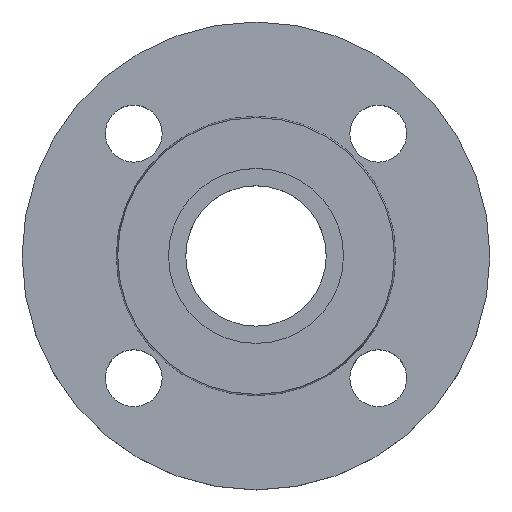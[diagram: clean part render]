
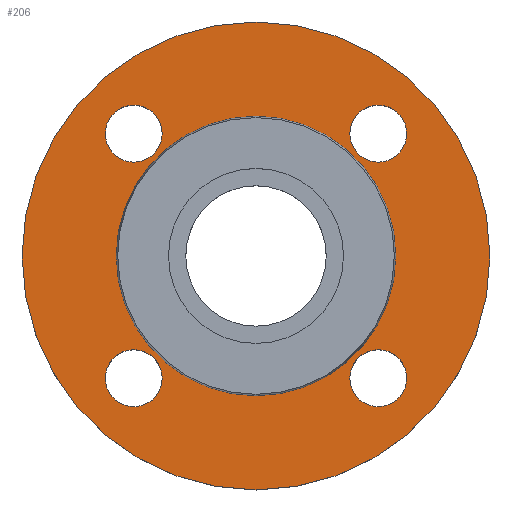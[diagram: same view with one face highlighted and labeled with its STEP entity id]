
A CAD part, top view. The second image highlights one B-rep face of the part: STEP entity #206.
In plain terms, the highlighted planar face has unit normal (0, 0, 1).
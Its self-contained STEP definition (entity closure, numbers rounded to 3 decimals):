
#1 = EDGE_CURVE ( 'NONE', #443, #347, #326, .T. ) ;
#14 = AXIS2_PLACEMENT_3D ( 'NONE', #131, #84, #107 ) ;
#19 = CIRCLE ( 'NONE', #14, 7. ) ;
#27 = AXIS2_PLACEMENT_3D ( 'NONE', #649, #650, #651 ) ;
#28 = CIRCLE ( 'NONE', #27, 7. ) ;
#41 = CIRCLE ( 'NONE', #42, 34.353 ) ;
#42 = AXIS2_PLACEMENT_3D ( 'NONE', #481, #482, #483 ) ;
#43 = EDGE_CURVE ( 'NONE', #408, #235, #41, .T. ) ;
#47 = AXIS2_PLACEMENT_3D ( 'NONE', #663, #665, #666 ) ;
#49 = EDGE_CURVE ( 'NONE', #350, #270, #374, .T. ) ;
#52 = CIRCLE ( 'NONE', #47, 57.5 ) ;
#53 = CIRCLE ( 'NONE', #58, 7. ) ;
#58 = AXIS2_PLACEMENT_3D ( 'NONE', #643, #644, #645 ) ;
#82 = EDGE_CURVE ( 'NONE', #446, #440, #334, .T. ) ;
#84 = DIRECTION ( 'NONE',  ( 0., 0., -1. ) ) ;
#94 = DIRECTION ( 'NONE',  ( 0., 0., -1. ) ) ;
#107 = DIRECTION ( 'NONE',  ( 1., 0., 0. ) ) ;
#111 = AXIS2_PLACEMENT_3D ( 'NONE', #113, #94, #112 ) ;
#112 = DIRECTION ( 'NONE',  ( -1., 0., 0. ) ) ;
#113 = CARTESIAN_POINT ( 'NONE',  ( 0., 0., -2. ) ) ;
#117 = EDGE_CURVE ( 'NONE', #440, #446, #325, .T. ) ;
#131 = CARTESIAN_POINT ( 'NONE',  ( -30.052, -30.052, -2. ) ) ;
#144 = EDGE_CURVE ( 'NONE', #270, #350, #303, .T. ) ;
#159 = CARTESIAN_POINT ( 'NONE',  ( -34.353, 0., -2. ) ) ;
#167 = EDGE_CURVE ( 'NONE', #233, #441, #632, .T. ) ;
#187 = CARTESIAN_POINT ( 'NONE',  ( 37.052, 30.052, -2. ) ) ;
#188 = CARTESIAN_POINT ( 'NONE',  ( -23.052, -30.052, -2. ) ) ;
#196 = CARTESIAN_POINT ( 'NONE',  ( -57.5, 0., -2. ) ) ;
#206 = ADVANCED_FACE ( 'NONE', ( #594, #595, #596, #597, #598, #599 ), #600, .T. ) ;
#207 = CARTESIAN_POINT ( 'NONE',  ( 23.052, 30.052, -2. ) ) ;
#223 = VERTEX_POINT ( 'NONE', #615 ) ;
#230 = VERTEX_POINT ( 'NONE', #617 ) ;
#233 = VERTEX_POINT ( 'NONE', #622 ) ;
#235 = VERTEX_POINT ( 'NONE', #623 ) ;
#246 = ORIENTED_EDGE ( 'NONE', *, *, #297, .T. ) ;
#247 = ORIENTED_EDGE ( 'NONE', *, *, #306, .T. ) ;
#258 = AXIS2_PLACEMENT_3D ( 'NONE', #566, #567, #568 ) ;
#264 = EDGE_LOOP ( 'NONE', ( #321, #322 ) ) ;
#270 = VERTEX_POINT ( 'NONE', #642 ) ;
#297 = EDGE_CURVE ( 'NONE', #230, #223, #53, .T. ) ;
#303 = CIRCLE ( 'NONE', #421, 7. ) ;
#306 = EDGE_CURVE ( 'NONE', #223, #230, #28, .T. ) ;
#313 = ORIENTED_EDGE ( 'NONE', *, *, #540, .T. ) ;
#315 = ORIENTED_EDGE ( 'NONE', *, *, #167, .T. ) ;
#316 = AXIS2_PLACEMENT_3D ( 'NONE', #601, #602, #603 ) ;
#319 = ORIENTED_EDGE ( 'NONE', *, *, #49, .T. ) ;
#320 = ORIENTED_EDGE ( 'NONE', *, *, #144, .T. ) ;
#321 = ORIENTED_EDGE ( 'NONE', *, *, #117, .T. ) ;
#322 = ORIENTED_EDGE ( 'NONE', *, *, #82, .T. ) ;
#324 = AXIS2_PLACEMENT_3D ( 'NONE', #518, #519, #520 ) ;
#325 = CIRCLE ( 'NONE', #324, 7. ) ;
#326 = CIRCLE ( 'NONE', #339, 57.5 ) ;
#333 = AXIS2_PLACEMENT_3D ( 'NONE', #503, #504, #505 ) ;
#334 = CIRCLE ( 'NONE', #333, 7. ) ;
#336 = ORIENTED_EDGE ( 'NONE', *, *, #43, .T. ) ;
#337 = ORIENTED_EDGE ( 'NONE', *, *, #585, .T. ) ;
#338 = EDGE_LOOP ( 'NONE', ( #246, #247 ) ) ;
#339 = AXIS2_PLACEMENT_3D ( 'NONE', #448, #449, #450 ) ;
#340 = ORIENTED_EDGE ( 'NONE', *, *, #352, .F. ) ;
#342 = ORIENTED_EDGE ( 'NONE', *, *, #1, .F. ) ;
#347 = VERTEX_POINT ( 'NONE', #655 ) ;
#350 = VERTEX_POINT ( 'NONE', #662 ) ;
#352 = EDGE_CURVE ( 'NONE', #347, #443, #52, .T. ) ;
#359 = AXIS2_PLACEMENT_3D ( 'NONE', #484, #485, #486 ) ;
#374 = CIRCLE ( 'NONE', #359, 7. ) ;
#407 = EDGE_LOOP ( 'NONE', ( #319, #320 ) ) ;
#408 = VERTEX_POINT ( 'NONE', #159 ) ;
#421 = AXIS2_PLACEMENT_3D ( 'NONE', #537, #538, #539 ) ;
#425 = EDGE_LOOP ( 'NONE', ( #313, #315 ) ) ;
#429 = EDGE_LOOP ( 'NONE', ( #340, #342 ) ) ;
#434 = EDGE_LOOP ( 'NONE', ( #336, #337 ) ) ;
#440 = VERTEX_POINT ( 'NONE', #187 ) ;
#441 = VERTEX_POINT ( 'NONE', #188 ) ;
#443 = VERTEX_POINT ( 'NONE', #196 ) ;
#446 = VERTEX_POINT ( 'NONE', #207 ) ;
#448 = CARTESIAN_POINT ( 'NONE',  ( 0., 0., -2. ) ) ;
#449 = DIRECTION ( 'NONE',  ( 0., 0., -1. ) ) ;
#450 = DIRECTION ( 'NONE',  ( -1., 0., 0. ) ) ;
#481 = CARTESIAN_POINT ( 'NONE',  ( 0., 0., -2. ) ) ;
#482 = DIRECTION ( 'NONE',  ( 0., 0., -1. ) ) ;
#483 = DIRECTION ( 'NONE',  ( -1., 0., 0. ) ) ;
#484 = CARTESIAN_POINT ( 'NONE',  ( -30.052, 30.052, -2. ) ) ;
#485 = DIRECTION ( 'NONE',  ( 0., 0., -1. ) ) ;
#486 = DIRECTION ( 'NONE',  ( 1., 0., 0. ) ) ;
#503 = CARTESIAN_POINT ( 'NONE',  ( 30.052, 30.052, -2. ) ) ;
#504 = DIRECTION ( 'NONE',  ( 0., 0., -1. ) ) ;
#505 = DIRECTION ( 'NONE',  ( 1., 0., 0. ) ) ;
#518 = CARTESIAN_POINT ( 'NONE',  ( 30.052, 30.052, -2. ) ) ;
#519 = DIRECTION ( 'NONE',  ( 0., 0., -1. ) ) ;
#520 = DIRECTION ( 'NONE',  ( 1., 0., 0. ) ) ;
#527 = CIRCLE ( 'NONE', #111, 34.353 ) ;
#537 = CARTESIAN_POINT ( 'NONE',  ( -30.052, 30.052, -2. ) ) ;
#538 = DIRECTION ( 'NONE',  ( 0., 0., -1. ) ) ;
#539 = DIRECTION ( 'NONE',  ( 1., 0., 0. ) ) ;
#540 = EDGE_CURVE ( 'NONE', #441, #233, #19, .T. ) ;
#566 = CARTESIAN_POINT ( 'NONE',  ( -30.052, -30.052, -2. ) ) ;
#567 = DIRECTION ( 'NONE',  ( 0., 0., -1. ) ) ;
#568 = DIRECTION ( 'NONE',  ( 1., 0., 0. ) ) ;
#585 = EDGE_CURVE ( 'NONE', #235, #408, #527, .T. ) ;
#594 = FACE_BOUND ( 'NONE', #338, .T. ) ;
#595 = FACE_BOUND ( 'NONE', #425, .T. ) ;
#596 = FACE_BOUND ( 'NONE', #407, .T. ) ;
#597 = FACE_BOUND ( 'NONE', #264, .T. ) ;
#598 = FACE_BOUND ( 'NONE', #434, .T. ) ;
#599 = FACE_OUTER_BOUND ( 'NONE', #429, .T. ) ;
#600 = PLANE ( 'NONE',  #316 ) ;
#601 = CARTESIAN_POINT ( 'NONE',  ( 34.353, 0., -2. ) ) ;
#602 = DIRECTION ( 'NONE',  ( 0., 0., 1. ) ) ;
#603 = DIRECTION ( 'NONE',  ( 1., 0., 0. ) ) ;
#615 = CARTESIAN_POINT ( 'NONE',  ( 23.052, -30.052, -2. ) ) ;
#617 = CARTESIAN_POINT ( 'NONE',  ( 37.052, -30.052, -2. ) ) ;
#622 = CARTESIAN_POINT ( 'NONE',  ( -37.052, -30.052, -2. ) ) ;
#623 = CARTESIAN_POINT ( 'NONE',  ( 34.353, 0., -2. ) ) ;
#632 = CIRCLE ( 'NONE', #258, 7. ) ;
#642 = CARTESIAN_POINT ( 'NONE',  ( -37.052, 30.052, -2. ) ) ;
#643 = CARTESIAN_POINT ( 'NONE',  ( 30.052, -30.052, -2. ) ) ;
#644 = DIRECTION ( 'NONE',  ( 0., 0., -1. ) ) ;
#645 = DIRECTION ( 'NONE',  ( 1., 0., 0. ) ) ;
#649 = CARTESIAN_POINT ( 'NONE',  ( 30.052, -30.052, -2. ) ) ;
#650 = DIRECTION ( 'NONE',  ( 0., 0., -1. ) ) ;
#651 = DIRECTION ( 'NONE',  ( 1., 0., 0. ) ) ;
#655 = CARTESIAN_POINT ( 'NONE',  ( 57.5, 0., -2. ) ) ;
#662 = CARTESIAN_POINT ( 'NONE',  ( -23.052, 30.052, -2. ) ) ;
#663 = CARTESIAN_POINT ( 'NONE',  ( 0., 0., -2. ) ) ;
#665 = DIRECTION ( 'NONE',  ( 0., 0., -1. ) ) ;
#666 = DIRECTION ( 'NONE',  ( -1., 0., 0. ) ) ;
